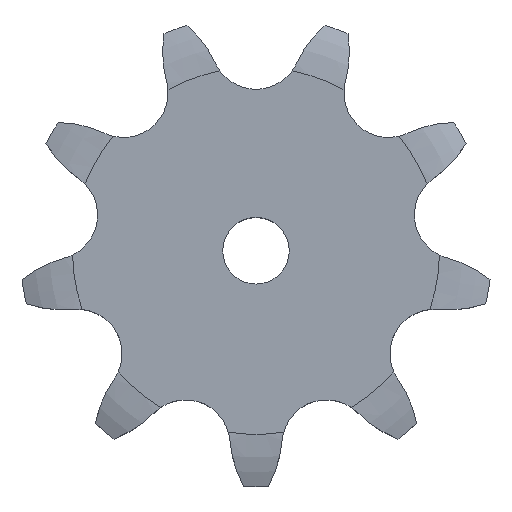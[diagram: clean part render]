
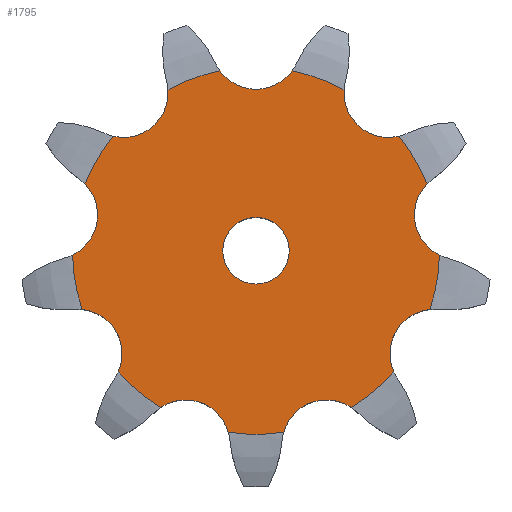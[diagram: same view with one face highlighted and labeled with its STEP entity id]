
A CAD part, top view. The second image highlights one B-rep face of the part: STEP entity #1795.
In plain terms, the highlighted planar face has unit normal (0, 0, 1).
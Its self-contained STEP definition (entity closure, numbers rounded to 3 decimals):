
#33=CARTESIAN_POINT('',(0.,0.,8.1));
#34=DIRECTION('',(0.,0.,-1.));
#35=DIRECTION('',(0.196,0.981,0.));
#36=AXIS2_PLACEMENT_3D('',#33,#34,#35);
#42=CARTESIAN_POINT('',(23.868,28.445,8.1));
#43=DIRECTION('',(0.,0.,1.));
#44=DIRECTION('',(-0.997,0.072,0.));
#45=AXIS2_PLACEMENT_3D('',#42,#43,#44);
#50=CARTESIAN_POINT('',(0.,0.,8.1));
#51=DIRECTION('',(0.,0.,-1.));
#52=DIRECTION('',(0.781,0.625,0.));
#53=AXIS2_PLACEMENT_3D('',#50,#51,#52);
#58=CARTESIAN_POINT('',(36.568,6.448,8.1));
#59=DIRECTION('',(0.,0.,1.));
#60=DIRECTION('',(-0.718,0.696,0.));
#61=AXIS2_PLACEMENT_3D('',#58,#59,#60);
#66=CARTESIAN_POINT('',(0.,0.,8.1));
#67=DIRECTION('',(0.,0.,-1.));
#68=DIRECTION('',(1.,-0.023,0.));
#69=AXIS2_PLACEMENT_3D('',#66,#67,#68);
#74=CARTESIAN_POINT('',(32.158,-18.566,8.1));
#75=DIRECTION('',(0.,0.,1.));
#76=DIRECTION('',(-0.102,0.995,0.));
#77=AXIS2_PLACEMENT_3D('',#74,#75,#76);
#82=CARTESIAN_POINT('',(0.,0.,8.1));
#83=DIRECTION('',(0.,0.,-1.));
#84=DIRECTION('',(0.751,-0.66,0.));
#85=AXIS2_PLACEMENT_3D('',#82,#83,#84);
#90=CARTESIAN_POINT('',(12.7,-34.893,8.1));
#91=DIRECTION('',(0.,0.,1.));
#92=DIRECTION('',(0.561,0.828,0.));
#93=AXIS2_PLACEMENT_3D('',#90,#91,#92);
#98=CARTESIAN_POINT('',(-12.7,-34.893,8.1));
#99=DIRECTION('',(0.,0.,1.));
#100=DIRECTION('',(0.962,0.273,0.));
#101=AXIS2_PLACEMENT_3D('',#98,#99,#100);
#106=CARTESIAN_POINT('',(0.,0.,8.1));
#107=DIRECTION('',(0.,0.,-1.));
#108=DIRECTION('',(-0.52,-0.854,0.));
#109=AXIS2_PLACEMENT_3D('',#106,#107,#108);
#114=CARTESIAN_POINT('',(-32.158,-18.566,8.1));
#115=DIRECTION('',(0.,0.,1.));
#116=DIRECTION('',(0.913,-0.409,0.));
#117=AXIS2_PLACEMENT_3D('',#114,#115,#116);
#122=CARTESIAN_POINT('',(0.,0.,8.1));
#123=DIRECTION('',(0.,0.,-1.));
#124=DIRECTION('',(-0.947,-0.32,0.));
#125=AXIS2_PLACEMENT_3D('',#122,#123,#124);
#130=CARTESIAN_POINT('',(-36.568,6.448,8.1));
#131=DIRECTION('',(0.,0.,1.));
#132=DIRECTION('',(0.436,-0.9,0.));
#133=AXIS2_PLACEMENT_3D('',#130,#131,#132);
#138=CARTESIAN_POINT('',(0.,0.,8.1));
#139=DIRECTION('',(0.,0.,-1.));
#140=DIRECTION('',(-0.931,0.364,0.));
#141=AXIS2_PLACEMENT_3D('',#138,#139,#140);
#146=CARTESIAN_POINT('',(-23.868,28.445,8.1));
#147=DIRECTION('',(0.,0.,1.));
#148=DIRECTION('',(-0.244,-0.97,0.));
#149=AXIS2_PLACEMENT_3D('',#146,#147,#148);
#154=CARTESIAN_POINT('',(0.,0.,8.1));
#155=DIRECTION('',(0.,0.,-1.));
#156=DIRECTION('',(-0.48,0.877,0.));
#157=AXIS2_PLACEMENT_3D('',#154,#155,#156);
#162=CARTESIAN_POINT('',(0.,37.132,8.1));
#163=DIRECTION('',(0.,0.,1.));
#164=DIRECTION('',(-0.81,-0.586,0.));
#165=AXIS2_PLACEMENT_3D('',#162,#163,#164);
#170=CARTESIAN_POINT('',(0.,0.,8.1));
#171=DIRECTION('',(0.,0.,1.));
#172=DIRECTION('',(1.,0.,0.));
#173=AXIS2_PLACEMENT_3D('',#170,#171,#172);
#178=CARTESIAN_POINT('',(0.,0.,8.1));
#179=DIRECTION('',(0.,0.,1.));
#180=DIRECTION('',(-1.,0.,0.));
#181=AXIS2_PLACEMENT_3D('',#178,#179,#180);
#234=CARTESIAN_POINT('',(0.,0.,8.1));
#235=DIRECTION('',(0.,0.,1.));
#236=DIRECTION('',(-0.151,-0.989,0.));
#237=AXIS2_PLACEMENT_3D('',#234,#235,#236);
#1199=CARTESIAN_POINT('',(-4.986,-32.701,8.1));
#1556=CARTESIAN_POINT('',(6.499,32.434,8.1));
#1557=CARTESIAN_POINT('',(15.87,29.023,8.1));
#1558=VERTEX_POINT('',#1556);
#1559=VERTEX_POINT('',#1557);
#1560=CARTESIAN_POINT('',(25.826,20.668,8.1));
#1561=CARTESIAN_POINT('',(30.813,12.032,8.1));
#1562=VERTEX_POINT('',#1560);
#1563=VERTEX_POINT('',#1561);
#1564=CARTESIAN_POINT('',(33.07,-0.768,8.1));
#1565=CARTESIAN_POINT('',(31.338,-10.589,8.1));
#1566=VERTEX_POINT('',#1564);
#1567=VERTEX_POINT('',#1565);
#1568=CARTESIAN_POINT('',(24.839,-21.845,8.1));
#1569=CARTESIAN_POINT('',(17.2,-28.255,8.1));
#1570=VERTEX_POINT('',#1568);
#1571=VERTEX_POINT('',#1569);
#1572=CARTESIAN_POINT('',(-17.2,-28.255,8.1));
#1573=CARTESIAN_POINT('',(-24.839,-21.845,8.1));
#1574=VERTEX_POINT('',#1572);
#1575=VERTEX_POINT('',#1573);
#1576=CARTESIAN_POINT('',(-31.338,-10.589,8.1));
#1577=CARTESIAN_POINT('',(-33.07,-0.768,8.1));
#1578=VERTEX_POINT('',#1576);
#1579=VERTEX_POINT('',#1577);
#1580=CARTESIAN_POINT('',(-30.813,12.032,8.1));
#1581=CARTESIAN_POINT('',(-25.826,20.668,8.1));
#1582=VERTEX_POINT('',#1580);
#1583=VERTEX_POINT('',#1581);
#1627=VERTEX_POINT('',#1199);
#1642=CARTESIAN_POINT('',(4.986,-32.701,8.1));
#1643=VERTEX_POINT('',#1642);
#1646=CARTESIAN_POINT('',(-15.87,29.023,8.1));
#1647=VERTEX_POINT('',#1646);
#1658=CARTESIAN_POINT('',(-6.499,32.434,8.1));
#1659=VERTEX_POINT('',#1658);
#1662=CARTESIAN_POINT('',(6.,0.,8.1));
#1663=CARTESIAN_POINT('',(-6.,0.,8.1));
#1664=VERTEX_POINT('',#1662);
#1665=VERTEX_POINT('',#1663);
#1746=CARTESIAN_POINT('',(0.,0.,8.1));
#1747=DIRECTION('',(0.,0.,1.));
#1748=DIRECTION('',(1.,0.,0.));
#1749=AXIS2_PLACEMENT_3D('',#1746,#1747,#1748);
#1750=PLANE('',#1749);
#1752=ORIENTED_EDGE('',*,*,#1751,.T.);
#1754=ORIENTED_EDGE('',*,*,#1753,.T.);
#1756=ORIENTED_EDGE('',*,*,#1755,.T.);
#1758=ORIENTED_EDGE('',*,*,#1757,.T.);
#1760=ORIENTED_EDGE('',*,*,#1759,.T.);
#1762=ORIENTED_EDGE('',*,*,#1761,.T.);
#1764=ORIENTED_EDGE('',*,*,#1763,.T.);
#1766=ORIENTED_EDGE('',*,*,#1765,.T.);
#1768=ORIENTED_EDGE('',*,*,#1767,.F.);
#1770=ORIENTED_EDGE('',*,*,#1769,.T.);
#1772=ORIENTED_EDGE('',*,*,#1771,.T.);
#1774=ORIENTED_EDGE('',*,*,#1773,.T.);
#1776=ORIENTED_EDGE('',*,*,#1775,.T.);
#1778=ORIENTED_EDGE('',*,*,#1777,.T.);
#1780=ORIENTED_EDGE('',*,*,#1779,.T.);
#1782=ORIENTED_EDGE('',*,*,#1781,.T.);
#1784=ORIENTED_EDGE('',*,*,#1783,.T.);
#1786=ORIENTED_EDGE('',*,*,#1785,.T.);
#1787=EDGE_LOOP('',(#1752,#1754,#1756,#1758,#1760,#1762,#1764,#1766,#1768,#1770,
#1772,#1774,#1776,#1778,#1780,#1782,#1784,#1786));
#1788=FACE_OUTER_BOUND('',#1787,.F.);
#1790=ORIENTED_EDGE('',*,*,#1789,.T.);
#1792=ORIENTED_EDGE('',*,*,#1791,.T.);
#1793=EDGE_LOOP('',(#1790,#1792));
#1794=FACE_BOUND('',#1793,.F.);
#1795=ADVANCED_FACE('',(#1788,#1794),#1750,.T.);
#37=CIRCLE('',#36,33.078);
#46=CIRCLE('',#45,8.019);
#54=CIRCLE('',#53,33.078);
#62=CIRCLE('',#61,8.019);
#70=CIRCLE('',#69,33.078);
#78=CIRCLE('',#77,8.019);
#86=CIRCLE('',#85,33.078);
#94=CIRCLE('',#93,8.019);
#102=CIRCLE('',#101,8.019);
#110=CIRCLE('',#109,33.078);
#118=CIRCLE('',#117,8.019);
#126=CIRCLE('',#125,33.078);
#134=CIRCLE('',#133,8.019);
#142=CIRCLE('',#141,33.078);
#150=CIRCLE('',#149,8.019);
#158=CIRCLE('',#157,33.078);
#166=CIRCLE('',#165,8.019);
#174=CIRCLE('',#173,6.);
#182=CIRCLE('',#181,6.);
#238=CIRCLE('',#237,33.078);
#1751=EDGE_CURVE('',#1558,#1559,#37,.T.);
#1753=EDGE_CURVE('',#1559,#1562,#46,.T.);
#1755=EDGE_CURVE('',#1562,#1563,#54,.T.);
#1757=EDGE_CURVE('',#1563,#1566,#62,.T.);
#1759=EDGE_CURVE('',#1566,#1567,#70,.T.);
#1761=EDGE_CURVE('',#1567,#1570,#78,.T.);
#1763=EDGE_CURVE('',#1570,#1571,#86,.T.);
#1765=EDGE_CURVE('',#1571,#1643,#94,.T.);
#1767=EDGE_CURVE('',#1627,#1643,#238,.T.);
#1769=EDGE_CURVE('',#1627,#1574,#102,.T.);
#1771=EDGE_CURVE('',#1574,#1575,#110,.T.);
#1773=EDGE_CURVE('',#1575,#1578,#118,.T.);
#1775=EDGE_CURVE('',#1578,#1579,#126,.T.);
#1777=EDGE_CURVE('',#1579,#1582,#134,.T.);
#1779=EDGE_CURVE('',#1582,#1583,#142,.T.);
#1781=EDGE_CURVE('',#1583,#1647,#150,.T.);
#1783=EDGE_CURVE('',#1647,#1659,#158,.T.);
#1785=EDGE_CURVE('',#1659,#1558,#166,.T.);
#1789=EDGE_CURVE('',#1664,#1665,#174,.T.);
#1791=EDGE_CURVE('',#1665,#1664,#182,.T.);
